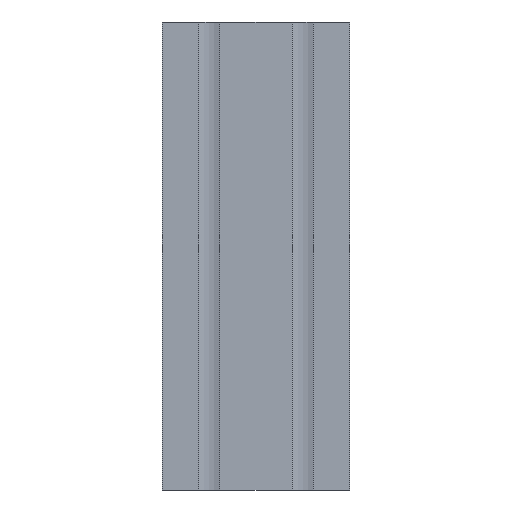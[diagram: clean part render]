
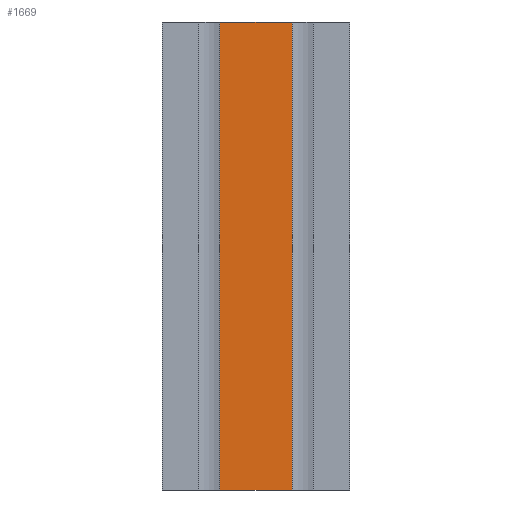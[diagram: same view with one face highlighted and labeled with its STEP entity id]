
A CAD part, front view. The second image highlights one B-rep face of the part: STEP entity #1669.
In plain terms, the highlighted planar face has unit normal (0, -1, 0).
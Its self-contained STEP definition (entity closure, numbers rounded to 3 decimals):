
#183=FACE_OUTER_BOUND('',#273,.T.);
#273=EDGE_LOOP('',(#1297,#1298,#1299,#1300));
#432=LINE('',#2655,#612);
#434=LINE('',#2659,#614);
#435=LINE('',#2661,#615);
#436=LINE('',#2662,#616);
#612=VECTOR('',#2174,100.);
#614=VECTOR('',#2178,15.5);
#615=VECTOR('',#2179,100.);
#616=VECTOR('',#2180,15.5);
#789=VERTEX_POINT('',#2652);
#790=VERTEX_POINT('',#2654);
#791=VERTEX_POINT('',#2658);
#792=VERTEX_POINT('',#2660);
#1004=EDGE_CURVE('',#790,#789,#432,.T.);
#1006=EDGE_CURVE('',#789,#791,#434,.T.);
#1007=EDGE_CURVE('',#792,#791,#435,.T.);
#1008=EDGE_CURVE('',#790,#792,#436,.T.);
#1297=ORIENTED_EDGE('',*,*,#1006,.T.);
#1298=ORIENTED_EDGE('',*,*,#1007,.F.);
#1299=ORIENTED_EDGE('',*,*,#1008,.F.);
#1300=ORIENTED_EDGE('',*,*,#1004,.T.);
#1591=PLANE('',#1803);
#1669=ADVANCED_FACE('',(#183),#1591,.T.);
#1803=AXIS2_PLACEMENT_3D('',#2657,#2176,#2177);
#2174=DIRECTION('',(0.,0.,1.));
#2176=DIRECTION('center_axis',(0.,-1.,0.));
#2177=DIRECTION('ref_axis',(0.,0.,-1.));
#2178=DIRECTION('',(-1.,0.,0.));
#2179=DIRECTION('',(0.,0.,1.));
#2180=DIRECTION('',(-1.,0.,0.));
#2652=CARTESIAN_POINT('',(17.75,-10.,100.));
#2654=CARTESIAN_POINT('',(17.75,-10.,0.));
#2655=CARTESIAN_POINT('',(17.75,-10.,0.));
#2657=CARTESIAN_POINT('Origin',(17.75,-10.,0.));
#2658=CARTESIAN_POINT('',(2.25,-10.,100.));
#2659=CARTESIAN_POINT('',(17.75,-10.,100.));
#2660=CARTESIAN_POINT('',(2.25,-10.,0.));
#2661=CARTESIAN_POINT('',(2.25,-10.,0.));
#2662=CARTESIAN_POINT('',(17.75,-10.,0.));
